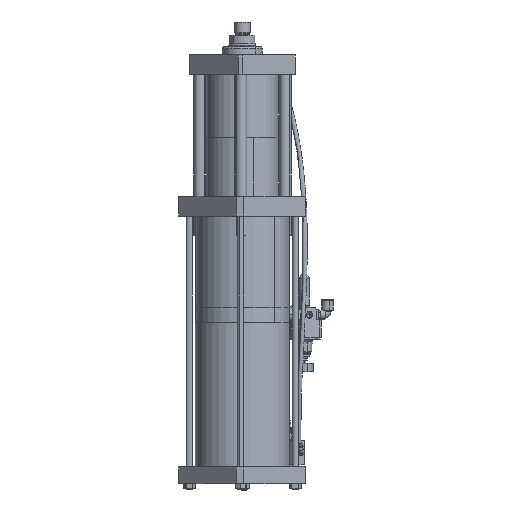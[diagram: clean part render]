
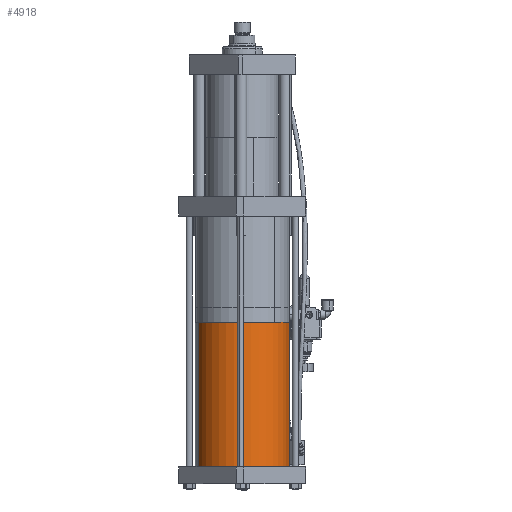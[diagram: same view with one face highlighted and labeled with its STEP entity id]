
A CAD part, front view. The second image highlights one B-rep face of the part: STEP entity #4918.
In plain terms, the highlighted cylindrical face has radius 87.5 mm (diameter 175 mm), a partial arc.
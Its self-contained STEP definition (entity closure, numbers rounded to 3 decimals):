
#37 = DIRECTION ( 'NONE',  ( 0., 0., 1. ) ) ;
#986 = CARTESIAN_POINT ( 'NONE',  ( 346.346, 62.806, -411.06 ) ) ;
#1912 = ORIENTED_EDGE ( 'NONE', *, *, #17584, .F. ) ;
#3039 = LINE ( 'NONE', #16533, #7732 ) ;
#4117 = DIRECTION ( 'NONE',  ( 0.938, 0.346, 0. ) ) ;
#4196 = CARTESIAN_POINT ( 'NONE',  ( 264.238, 32.564, -411.06 ) ) ;
#4918 = ADVANCED_FACE ( 'NONE', ( #7441 ), #15099, .T. ) ;
#4988 = DIRECTION ( 'NONE',  ( 0., 0., -1. ) ) ;
#5005 = VERTEX_POINT ( 'NONE', #15727 ) ;
#5494 = CARTESIAN_POINT ( 'NONE',  ( 264.238, 32.564, -411.06 ) ) ;
#7441 = FACE_OUTER_BOUND ( 'NONE', #20984, .T. ) ;
#7732 = VECTOR ( 'NONE', #10962, 1000. ) ;
#8009 = DIRECTION ( 'NONE',  ( 0., 0., 1. ) ) ;
#8427 = CIRCLE ( 'NONE', #22915, 87.5 ) ;
#9339 = AXIS2_PLACEMENT_3D ( 'NONE', #15663, #8009, #4117 ) ;
#9583 = EDGE_CURVE ( 'NONE', #9682, #23003, #11816, .T. ) ;
#9682 = VERTEX_POINT ( 'NONE', #25637 ) ;
#10730 = VECTOR ( 'NONE', #21849, 1000. ) ;
#10962 = DIRECTION ( 'NONE',  ( 0., 0., -1. ) ) ;
#11517 = VERTEX_POINT ( 'NONE', #986 ) ;
#11816 = CIRCLE ( 'NONE', #9339, 87.5 ) ;
#13410 = DIRECTION ( 'NONE',  ( -0.938, -0.346, 0. ) ) ;
#13647 = EDGE_CURVE ( 'NONE', #11517, #23003, #23068, .T. ) ;
#15099 = CYLINDRICAL_SURFACE ( 'NONE', #24091, 87.5 ) ;
#15663 = CARTESIAN_POINT ( 'NONE',  ( 264.238, 32.564, -681.06 ) ) ;
#15727 = CARTESIAN_POINT ( 'NONE',  ( 182.131, 2.322, -411.06 ) ) ;
#16533 = CARTESIAN_POINT ( 'NONE',  ( 182.131, 2.322, -411.06 ) ) ;
#17569 = ORIENTED_EDGE ( 'NONE', *, *, #9583, .T. ) ;
#17584 = EDGE_CURVE ( 'NONE', #5005, #11517, #8427, .T. ) ;
#18451 = ORIENTED_EDGE ( 'NONE', *, *, #25533, .T. ) ;
#18674 = ORIENTED_EDGE ( 'NONE', *, *, #13647, .F. ) ;
#19230 = CARTESIAN_POINT ( 'NONE',  ( 346.346, 62.806, -681.06 ) ) ;
#20984 = EDGE_LOOP ( 'NONE', ( #18674, #1912, #18451, #17569 ) ) ;
#21849 = DIRECTION ( 'NONE',  ( 0., 0., -1. ) ) ;
#22915 = AXIS2_PLACEMENT_3D ( 'NONE', #4196, #37, #23918 ) ;
#23003 = VERTEX_POINT ( 'NONE', #19230 ) ;
#23068 = LINE ( 'NONE', #25161, #10730 ) ;
#23918 = DIRECTION ( 'NONE',  ( 0.938, 0.346, 0. ) ) ;
#24091 = AXIS2_PLACEMENT_3D ( 'NONE', #5494, #4988, #13410 ) ;
#25161 = CARTESIAN_POINT ( 'NONE',  ( 346.346, 62.806, -411.06 ) ) ;
#25533 = EDGE_CURVE ( 'NONE', #5005, #9682, #3039, .T. ) ;
#25637 = CARTESIAN_POINT ( 'NONE',  ( 182.131, 2.322, -681.06 ) ) ;
